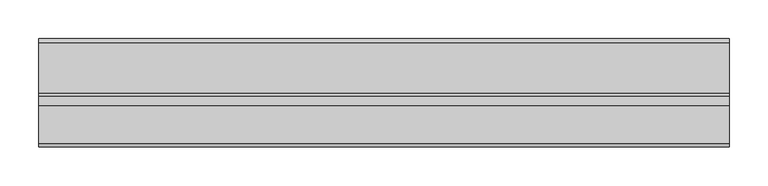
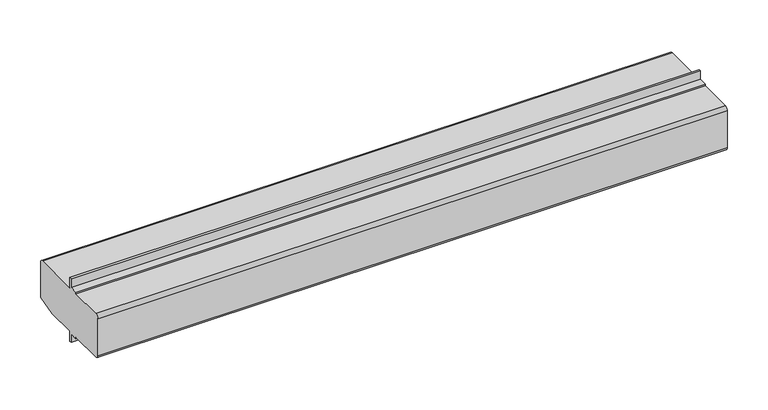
"""IFC4 building model written with IfcOpenShell, lengths in millimetres: air terminal geometry, RBS_57_AT_ventilatierooster_BUVA_SH : Acoustream_65."""

from ifc_helpers import new_model, si_unit, point, frame, frame_2d, origin, place, context, project, spatial, polyline, circle_curve, trimmed, segment, composite_curve, outline, extrude, source, transform, mapped, element, save


def air_terminal_c1de08d3(model_context):
    return source(origin(), model_context, "Body", "SweptSolid", [
        extrude(outline(composite_curve([segment(polyline([(43.0, 0.0), (0.0, 0.0), (0.0, -15.0), (-3.0, -15.0), (-3.0, -2.2152661), (-15.0, -2.2152661), (-15.0, 0.0), (-64.0, 0.0)]), True, "CONTINUOUS"), segment(trimmed(circle_curve(frame_2d((-64.0, 5.0)), 5.0), [point((-64.0, 0.0))], [point((-69.0, 5.0))], False, "CARTESIAN"), True, "CONTINUOUS"), segment(polyline([(-69.0, 5.0), (-69.0, 60.0)]), True, "CONTINUOUS"), segment(trimmed(circle_curve(frame_2d((-64.0, 60.0)), 5.0), [point((-69.0, 60.0))], [point((-64.0, 65.0))], False, "CARTESIAN"), True, "CONTINUOUS"), segment(polyline([(-64.0, 65.0), (-15.0, 65.0), (-15.0, 67.2152661), (-3.0, 67.2152661), (-3.0, 80.0), (0.0, 80.0), (0.0, 65.0), (66.0, 65.0)]), True, "CONTINUOUS"), segment(trimmed(circle_curve(frame_2d((66.0, 60.0)), 5.0), [point((66.0, 65.0))], [point((71.0, 60.0))], False, "CARTESIAN"), True, "CONTINUOUS"), segment(polyline([(71.0, 60.0), (71.0, 7.5025774), (43.0, 0.0)]), True, "CONTINUOUS")], self_intersect=False)), frame((-445.0, 0.0, 0.0), z_axis=(1.0, 0.0, 0.0), x_axis=(0.0, 1.0, 0.0)), (0.0, 0.0, 1.0), 890.0),
    ])


if __name__ == "__main__":
    model = new_model("IFC4")
    model_context = context("Model", 3, world=origin())
    ifc_project = project(units=[si_unit("LENGTHUNIT", "METRE", prefix="MILLI")], contexts=[model_context])
    site = spatial("IfcSite", under=ifc_project)
    building = spatial("IfcBuilding", under=site)
    placement = place(None, origin())
    air_terminal_shape = air_terminal_c1de08d3(model_context)
    element("IfcAirTerminal", 1, ObjectType="RBS_57_AT_ventilatierooster_BUVA_SH : Acoustream_65", at=placement, inside=building, context=model_context, shape_type="MappedRepresentation", body=[
        mapped(air_terminal_shape, transform((0.0, 0.0, 0.0), x_axis=(1.0, 0.0, 0.0), y_axis=(0.0, 1.0, 0.0), z_axis=(0.0, 0.0, 1.0))),
    ])
    save(model, "model.ifc")
